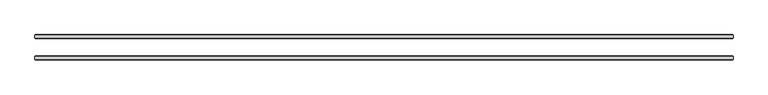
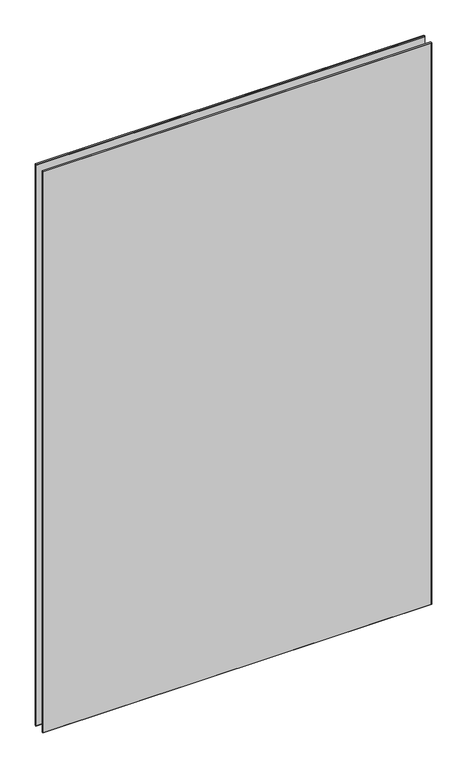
"""IFC4 building model written with IfcOpenShell, lengths in millimetres: plate geometry, 10-AMG-2-Панель двойной витраж10 : Стекло 10mm."""

from ifc_helpers import new_model, si_unit, origin, place, context, project, spatial, faceted_brep, source, transform, mapped, element, save


def plate_1af2d558(model_context):
    return source(origin(), model_context, "Body", "Brep", [
        faceted_brep([(909.6479348, -31.4961653, 2758.0), (909.6479348, -24.5038347, 2758.0), (-909.6479348, -24.5038347, 2758.0), (-909.6479348, -31.4961653, 2758.0), (909.6479348, -24.5038347, -20.0), (909.6479348, -31.4961653, -20.0), (-909.6479348, -31.4961653, -20.0), (-909.6479348, -24.5038347, -20.0), (-908.1441001, -23.0, 2756.4961653), (908.1441001, -23.0, 2756.4961653), (908.1441001, -23.0, -18.5039422), (-908.1441001, -23.0, -18.5039422), (908.1441001, -33.0, 2756.4961653), (-908.1441001, -33.0, 2756.4961653), (-908.1441001, -33.0, -18.4961653), (908.1441001, -33.0, -18.4961653)], [[[0, 1, 2, 3]], [[4, 5, 6, 7]], [[8, 9, 10, 11]], [[3, 2, 7, 6]], [[12, 13, 14, 15]], [[1, 0, 5, 4]], [[1, 4, 10, 9]], [[5, 0, 12, 15]], [[0, 3, 13, 12]], [[2, 1, 9, 8]], [[7, 2, 8, 11]], [[3, 6, 14, 13]], [[6, 5, 15, 14]], [[4, 7, 11, 10]]]),
        faceted_brep([(909.6479348, 24.5038347, 2758.0), (909.6479348, 31.4961653, 2758.0), (-909.6479348, 31.4961653, 2758.0), (-909.6479348, 24.5038347, 2758.0), (909.6479348, 31.4961653, -20.0), (909.6479348, 24.5038347, -20.0), (-909.6479348, 24.5038347, -20.0), (-909.6479348, 31.4961653, -20.0), (-908.1441001, 33.0, 2756.4961653), (908.1441001, 33.0, 2756.4961653), (908.1441001, 33.0, -18.5039422), (-908.1441001, 33.0, -18.5039422), (908.1441001, 23.0, 2756.4961653), (-908.1441001, 23.0, 2756.4961653), (-908.1441001, 23.0, -18.4961653), (908.1441001, 23.0, -18.4961653)], [[[0, 1, 2, 3]], [[4, 5, 6, 7]], [[8, 9, 10, 11]], [[3, 2, 7, 6]], [[12, 13, 14, 15]], [[1, 0, 5, 4]], [[1, 4, 10, 9]], [[5, 0, 12, 15]], [[7, 2, 8, 11]], [[3, 6, 14, 13]], [[0, 3, 13, 12]], [[2, 1, 9, 8]], [[6, 5, 15, 14]], [[4, 7, 11, 10]]]),
    ])


if __name__ == "__main__":
    model = new_model("IFC4")
    model_context = context("Model", 3, world=origin())
    ifc_project = project(units=[si_unit("LENGTHUNIT", "METRE", prefix="MILLI")], contexts=[model_context])
    site = spatial("IfcSite", under=ifc_project)
    building = spatial("IfcBuilding", under=site)
    placement = place(None, origin())
    plate_shape = plate_1af2d558(model_context)
    element("IfcPlate", 1, ObjectType="10-AMG-2-Панель двойной витраж10 : Стекло 10mm", at=placement, inside=building, context=model_context, shape_type="MappedRepresentation", body=[
        mapped(plate_shape, transform((0.0, 0.0, 0.0), x_axis=(1.0, 0.0, 0.0), y_axis=(0.0, 1.0, 0.0), z_axis=(0.0, 0.0, 1.0))),
    ])
    save(model, "model.ifc")
